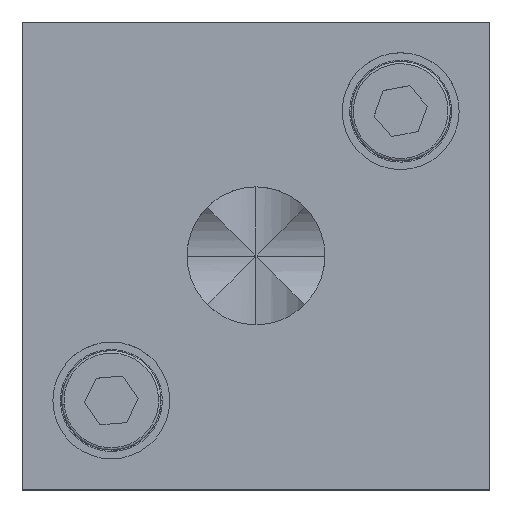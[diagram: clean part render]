
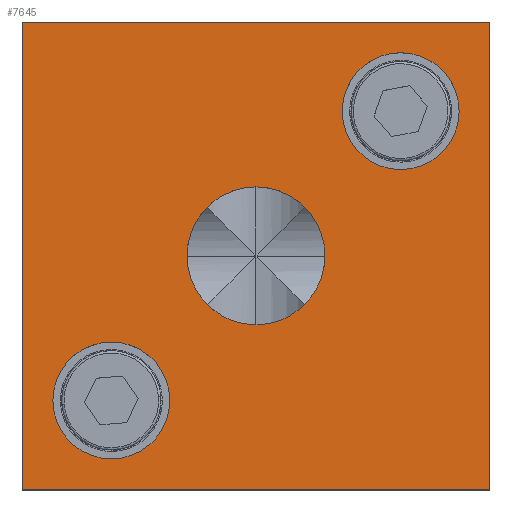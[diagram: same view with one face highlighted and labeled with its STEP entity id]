
A CAD part, top view. The second image highlights one B-rep face of the part: STEP entity #7645.
In plain terms, the highlighted planar face has unit normal (0, 0, 1).
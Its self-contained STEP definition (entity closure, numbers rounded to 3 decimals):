
#86 = CIRCLE ( 'NONE', #17067, 5.9 ) ;
#112 = LINE ( 'NONE', #13767, #6843 ) ;
#523 = EDGE_CURVE ( 'NONE', #8607, #23004, #13885, .T. ) ;
#539 = CARTESIAN_POINT ( 'NONE',  ( -58.362, 27.835, 32.44 ) ) ;
#548 = VERTEX_POINT ( 'NONE', #16042 ) ;
#756 = CARTESIAN_POINT ( 'NONE',  ( -78.362, 7.835, 32.44 ) ) ;
#764 = CARTESIAN_POINT ( 'NONE',  ( -58.362, 7.835, 32.44 ) ) ;
#1720 = EDGE_CURVE ( 'NONE', #5625, #2760, #86, .T. ) ;
#1846 = DIRECTION ( 'NONE',  ( 1., 0., 0. ) ) ;
#2223 = DIRECTION ( 'NONE',  ( 0., -1., 0. ) ) ;
#2497 = CARTESIAN_POINT ( 'NONE',  ( -98.362, 27.835, 32.44 ) ) ;
#2530 = DIRECTION ( 'NONE',  ( 0., 0., -1. ) ) ;
#2760 = VERTEX_POINT ( 'NONE', #3257 ) ;
#2930 = VERTEX_POINT ( 'NONE', #17446 ) ;
#3066 = DIRECTION ( 'NONE',  ( 0., -1., 0. ) ) ;
#3257 = CARTESIAN_POINT ( 'NONE',  ( -72.462, 27.835, 32.44 ) ) ;
#3462 = AXIS2_PLACEMENT_3D ( 'NONE', #20770, #7137, #7223 ) ;
#3675 = CARTESIAN_POINT ( 'NONE',  ( -98.362, 47.835, 32.44 ) ) ;
#3692 = VERTEX_POINT ( 'NONE', #15124 ) ;
#3985 = AXIS2_PLACEMENT_3D ( 'NONE', #6046, #13534, #1846 ) ;
#4205 = FACE_BOUND ( 'NONE', #6436, .T. ) ;
#4267 = EDGE_CURVE ( 'NONE', #2760, #5625, #15671, .T. ) ;
#4297 = EDGE_CURVE ( 'NONE', #23004, #11623, #112, .T. ) ;
#4488 = DIRECTION ( 'NONE',  ( 0., -1., 0. ) ) ;
#4592 = DIRECTION ( 'NONE',  ( 0., 0., -1. ) ) ;
#4698 = CIRCLE ( 'NONE', #8997, 5. ) ;
#5134 = ORIENTED_EDGE ( 'NONE', *, *, #24711, .T. ) ;
#5297 = CARTESIAN_POINT ( 'NONE',  ( -90.736, 15.46, 32.44 ) ) ;
#5492 = CIRCLE ( 'NONE', #22181, 5. ) ;
#5625 = VERTEX_POINT ( 'NONE', #18938 ) ;
#5903 = CARTESIAN_POINT ( 'NONE',  ( -65.987, 40.209, 32.44 ) ) ;
#6046 = CARTESIAN_POINT ( 'NONE',  ( -98.362, 7.835, 32.44 ) ) ;
#6290 = DIRECTION ( 'NONE',  ( 0., 1., 0. ) ) ;
#6376 = AXIS2_PLACEMENT_3D ( 'NONE', #22005, #4592, #6451 ) ;
#6436 = EDGE_LOOP ( 'NONE', ( #12488, #11454 ) ) ;
#6451 = DIRECTION ( 'NONE',  ( 1., 0., 0. ) ) ;
#6743 = ORIENTED_EDGE ( 'NONE', *, *, #1720, .T. ) ;
#6786 = EDGE_CURVE ( 'NONE', #548, #3692, #7347, .T. ) ;
#6843 = VECTOR ( 'NONE', #15975, 1000. ) ;
#6891 = VECTOR ( 'NONE', #11885, 1000. ) ;
#7137 = DIRECTION ( 'NONE',  ( 0., 0., -1. ) ) ;
#7147 = ORIENTED_EDGE ( 'NONE', *, *, #23749, .T. ) ;
#7223 = DIRECTION ( 'NONE',  ( 0., -1., 0. ) ) ;
#7347 = CIRCLE ( 'NONE', #3462, 5. ) ;
#7645 = ADVANCED_FACE ( 'NONE', ( #20059, #4205, #19124, #17276 ), #17509, .T. ) ;
#7718 = ORIENTED_EDGE ( 'NONE', *, *, #11230, .T. ) ;
#8084 = DIRECTION ( 'NONE',  ( 1., 0., 0. ) ) ;
#8279 = DIRECTION ( 'NONE',  ( 1., 0., 0. ) ) ;
#8607 = VERTEX_POINT ( 'NONE', #764 ) ;
#8860 = EDGE_LOOP ( 'NONE', ( #7718, #7147, #16383, #13978 ) ) ;
#8997 = AXIS2_PLACEMENT_3D ( 'NONE', #5903, #25181, #2223 ) ;
#10855 = CARTESIAN_POINT ( 'NONE',  ( -65.987, 40.209, 32.44 ) ) ;
#11230 = EDGE_CURVE ( 'NONE', #11623, #15131, #17230, .T. ) ;
#11454 = ORIENTED_EDGE ( 'NONE', *, *, #17504, .F. ) ;
#11623 = VERTEX_POINT ( 'NONE', #3675 ) ;
#11668 = EDGE_CURVE ( 'NONE', #16573, #2930, #4698, .T. ) ;
#11885 = DIRECTION ( 'NONE',  ( 0., -1., 0. ) ) ;
#12488 = ORIENTED_EDGE ( 'NONE', *, *, #11668, .F. ) ;
#12636 = VECTOR ( 'NONE', #8279, 1000. ) ;
#12818 = DIRECTION ( 'NONE',  ( 0., 0., 1. ) ) ;
#13209 = ORIENTED_EDGE ( 'NONE', *, *, #6786, .T. ) ;
#13534 = DIRECTION ( 'NONE',  ( 0., 0., 1. ) ) ;
#13613 = VECTOR ( 'NONE', #6290, 1000. ) ;
#13767 = CARTESIAN_POINT ( 'NONE',  ( -78.362, 47.835, 32.44 ) ) ;
#13885 = LINE ( 'NONE', #539, #13613 ) ;
#13919 = CIRCLE ( 'NONE', #23054, 5. ) ;
#13978 = ORIENTED_EDGE ( 'NONE', *, *, #4297, .T. ) ;
#14116 = EDGE_LOOP ( 'NONE', ( #13209, #5134 ) ) ;
#15124 = CARTESIAN_POINT ( 'NONE',  ( -90.736, 20.46, 32.44 ) ) ;
#15131 = VERTEX_POINT ( 'NONE', #22663 ) ;
#15472 = ORIENTED_EDGE ( 'NONE', *, *, #4267, .T. ) ;
#15671 = CIRCLE ( 'NONE', #6376, 5.9 ) ;
#15975 = DIRECTION ( 'NONE',  ( -1., 0., 0. ) ) ;
#16042 = CARTESIAN_POINT ( 'NONE',  ( -90.736, 10.46, 32.44 ) ) ;
#16265 = LINE ( 'NONE', #756, #12636 ) ;
#16383 = ORIENTED_EDGE ( 'NONE', *, *, #523, .T. ) ;
#16573 = VERTEX_POINT ( 'NONE', #24198 ) ;
#17067 = AXIS2_PLACEMENT_3D ( 'NONE', #18116, #2530, #8084 ) ;
#17230 = LINE ( 'NONE', #2497, #6891 ) ;
#17276 = FACE_OUTER_BOUND ( 'NONE', #8860, .T. ) ;
#17446 = CARTESIAN_POINT ( 'NONE',  ( -65.987, 45.209, 32.44 ) ) ;
#17504 = EDGE_CURVE ( 'NONE', #2930, #16573, #13919, .T. ) ;
#17509 = PLANE ( 'NONE',  #3985 ) ;
#18116 = CARTESIAN_POINT ( 'NONE',  ( -78.362, 27.835, 32.44 ) ) ;
#18913 = DIRECTION ( 'NONE',  ( 0., 0., -1. ) ) ;
#18938 = CARTESIAN_POINT ( 'NONE',  ( -84.262, 27.835, 32.44 ) ) ;
#19124 = FACE_BOUND ( 'NONE', #21412, .T. ) ;
#20059 = FACE_BOUND ( 'NONE', #14116, .T. ) ;
#20770 = CARTESIAN_POINT ( 'NONE',  ( -90.736, 15.46, 32.44 ) ) ;
#21412 = EDGE_LOOP ( 'NONE', ( #15472, #6743 ) ) ;
#22005 = CARTESIAN_POINT ( 'NONE',  ( -78.362, 27.835, 32.44 ) ) ;
#22181 = AXIS2_PLACEMENT_3D ( 'NONE', #5297, #18913, #3066 ) ;
#22663 = CARTESIAN_POINT ( 'NONE',  ( -98.362, 7.835, 32.44 ) ) ;
#23004 = VERTEX_POINT ( 'NONE', #23188 ) ;
#23054 = AXIS2_PLACEMENT_3D ( 'NONE', #10855, #12818, #4488 ) ;
#23188 = CARTESIAN_POINT ( 'NONE',  ( -58.362, 47.835, 32.44 ) ) ;
#23749 = EDGE_CURVE ( 'NONE', #15131, #8607, #16265, .T. ) ;
#24198 = CARTESIAN_POINT ( 'NONE',  ( -65.987, 35.209, 32.44 ) ) ;
#24711 = EDGE_CURVE ( 'NONE', #3692, #548, #5492, .T. ) ;
#25181 = DIRECTION ( 'NONE',  ( 0., 0., 1. ) ) ;
